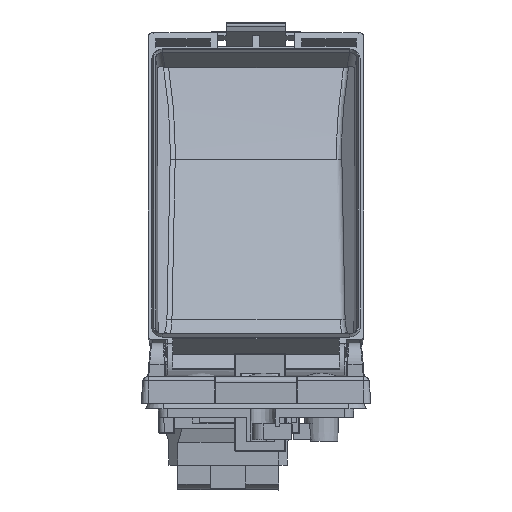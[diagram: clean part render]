
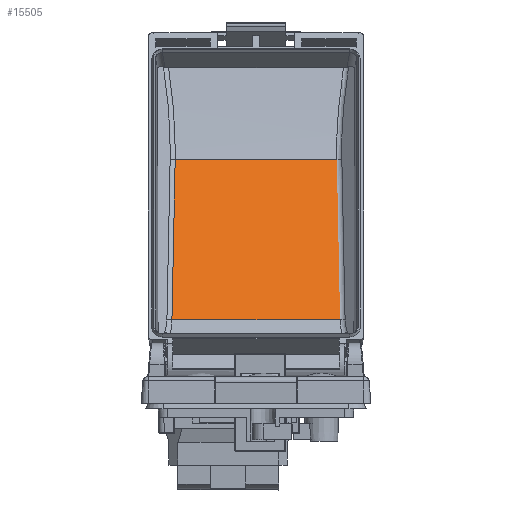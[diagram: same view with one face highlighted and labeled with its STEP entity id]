
A CAD part, left-side view. The second image highlights one B-rep face of the part: STEP entity #15505.
In plain terms, the highlighted planar face has unit normal (-0.865, 0, 0.502).
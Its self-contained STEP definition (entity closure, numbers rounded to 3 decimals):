
#162 = CARTESIAN_POINT ( 'NONE',  ( 71.612, 243.595, 16.093 ) ) ;
#1745 = FACE_OUTER_BOUND ( 'NONE', #10459, .T. ) ;
#3394 = EDGE_CURVE ( 'NONE', #36096, #13118, #10416, .T. ) ;
#8602 = CARTESIAN_POINT ( 'NONE',  ( 89.141, 196.683, 46.264 ) ) ;
#10416 = B_SPLINE_CURVE_WITH_KNOTS ( 'NONE', 3,
 ( #22453, #22048, #8602, #45124 ),
 .UNSPECIFIED., .F., .F.,
 ( 4, 4 ),
 ( 0., 1. ),
 .UNSPECIFIED. ) ;
#10459 = EDGE_LOOP ( 'NONE', ( #50268, #51550, #34698, #14565 ) ) ;
#13118 = VERTEX_POINT ( 'NONE', #39743 ) ;
#14072 = EDGE_CURVE ( 'NONE', #54654, #36234, #38835, .T. ) ;
#14565 = ORIENTED_EDGE ( 'NONE', *, *, #15108, .T. ) ;
#15108 = EDGE_CURVE ( 'NONE', #13118, #36234, #45806, .T. ) ;
#15505 = ADVANCED_FACE ( 'NONE', ( #1745 ), #31180, .F. ) ;
#17485 = DIRECTION ( 'NONE',  ( 0.865, 0., -0.502 ) ) ;
#18538 = CARTESIAN_POINT ( 'NONE',  ( 97.905, 189.435, 61.35 ) ) ;
#20685 = CARTESIAN_POINT ( 'NONE',  ( 97.905, 242.682, 61.35 ) ) ;
#22048 = CARTESIAN_POINT ( 'NONE',  ( 80.377, 196.379, 31.179 ) ) ;
#22453 = CARTESIAN_POINT ( 'NONE',  ( 71.612, 196.074, 16.093 ) ) ;
#28627 = CARTESIAN_POINT ( 'NONE',  ( 71.612, 189.435, 16.093 ) ) ;
#29097 = VECTOR ( 'NONE', #33237, 1000. ) ;
#31180 = PLANE ( 'NONE',  #34018 ) ;
#33237 = DIRECTION ( 'NONE',  ( 0., 1., 0. ) ) ;
#34018 = AXIS2_PLACEMENT_3D ( 'NONE', #49101, #17485, #53676 ) ;
#34698 = ORIENTED_EDGE ( 'NONE', *, *, #3394, .T. ) ;
#35826 = CARTESIAN_POINT ( 'NONE',  ( 71.612, 196.074, 16.093 ) ) ;
#36096 = VERTEX_POINT ( 'NONE', #35826 ) ;
#36234 = VERTEX_POINT ( 'NONE', #20685 ) ;
#38731 = VECTOR ( 'NONE', #45968, 1000. ) ;
#38835 = LINE ( 'NONE', #39332, #50138 ) ;
#39332 = CARTESIAN_POINT ( 'NONE',  ( 71.612, 243.595, 16.093 ) ) ;
#39743 = CARTESIAN_POINT ( 'NONE',  ( 97.905, 196.988, 61.35 ) ) ;
#43312 = DIRECTION ( 'NONE',  ( 0.502, -0.017, 0.865 ) ) ;
#45124 = CARTESIAN_POINT ( 'NONE',  ( 97.905, 196.988, 61.35 ) ) ;
#45806 = LINE ( 'NONE', #18538, #38731 ) ;
#45968 = DIRECTION ( 'NONE',  ( 0., 1., 0. ) ) ;
#49049 = LINE ( 'NONE', #28627, #29097 ) ;
#49101 = CARTESIAN_POINT ( 'NONE',  ( 97.905, 189.435, 61.35 ) ) ;
#50138 = VECTOR ( 'NONE', #43312, 1000. ) ;
#50268 = ORIENTED_EDGE ( 'NONE', *, *, #14072, .F. ) ;
#51550 = ORIENTED_EDGE ( 'NONE', *, *, #53197, .F. ) ;
#53197 = EDGE_CURVE ( 'NONE', #36096, #54654, #49049, .T. ) ;
#53676 = DIRECTION ( 'NONE',  ( -0.502, 0., -0.865 ) ) ;
#54654 = VERTEX_POINT ( 'NONE', #162 ) ;
